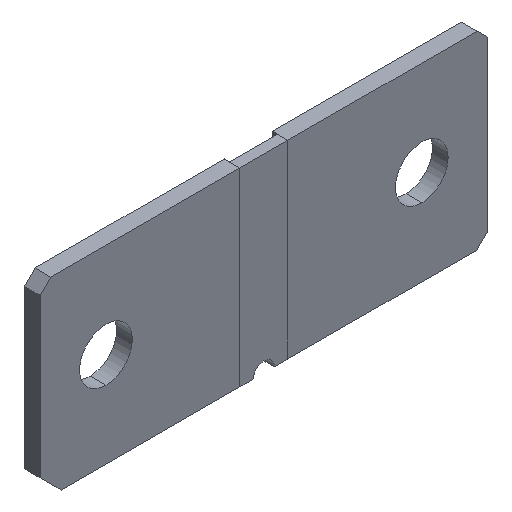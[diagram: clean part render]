
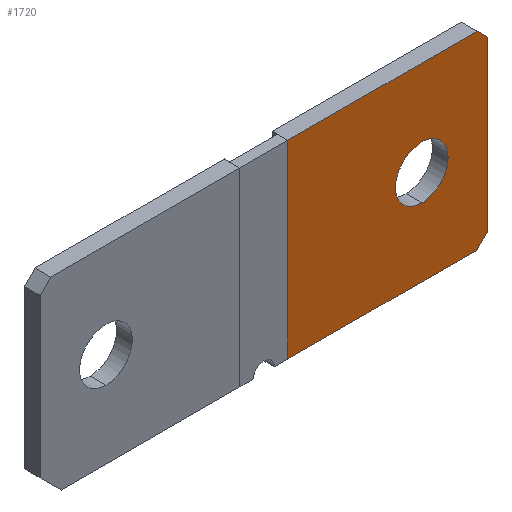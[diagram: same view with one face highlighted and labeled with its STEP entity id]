
A CAD part, isometric view. The second image highlights one B-rep face of the part: STEP entity #1720.
In plain terms, the highlighted planar face has unit normal (0, -1, 0).
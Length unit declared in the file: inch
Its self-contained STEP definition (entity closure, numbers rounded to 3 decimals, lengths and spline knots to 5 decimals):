
#80 = CARTESIAN_POINT ( 'NONE',  ( 0.5032, 0., -0.00243 ) ) ;
#107 = EDGE_CURVE ( 'NONE', #1900, #1770, #606, .T. ) ;
#119 = LINE ( 'NONE', #301, #360 ) ;
#207 = CARTESIAN_POINT ( 'NONE',  ( -0.4978, 0., -0.71093 ) ) ;
#251 = DIRECTION ( 'NONE',  ( -0.707, 0., -0.707 ) ) ;
#278 = CIRCLE ( 'NONE', #691, 0.197 ) ;
#289 = EDGE_CURVE ( 'NONE', #1003, #1673, #344, .T. ) ;
#301 = CARTESIAN_POINT ( 'NONE',  ( 0.9952, 0., 0.62707 ) ) ;
#314 = CARTESIAN_POINT ( 'NONE',  ( 0.5032, 0., -0.00243 ) ) ;
#344 = LINE ( 'NONE', #1277, #1364 ) ;
#360 = VECTOR ( 'NONE', #1931, 39.37008 ) ;
#375 = CARTESIAN_POINT ( 'NONE',  ( 0.9952, 0., -0.63193 ) ) ;
#407 = CARTESIAN_POINT ( 'NONE',  ( 0.9162, 0., 0.70607 ) ) ;
#442 = ORIENTED_EDGE ( 'NONE', *, *, #1240, .F. ) ;
#487 = CARTESIAN_POINT ( 'NONE',  ( -0.4978, 0., -0.71093 ) ) ;
#569 = DIRECTION ( 'NONE',  ( -1., 0., 0. ) ) ;
#590 = FACE_OUTER_BOUND ( 'NONE', #1413, .T. ) ;
#606 = CIRCLE ( 'NONE', #1546, 0.197 ) ;
#653 = VECTOR ( 'NONE', #569, 39.37008 ) ;
#691 = AXIS2_PLACEMENT_3D ( 'NONE', #314, #2297, #2287 ) ;
#737 = LINE ( 'NONE', #375, #1327 ) ;
#787 = LINE ( 'NONE', #1857, #1859 ) ;
#791 = ORIENTED_EDGE ( 'NONE', *, *, #107, .T. ) ;
#815 = ORIENTED_EDGE ( 'NONE', *, *, #1022, .T. ) ;
#894 = DIRECTION ( 'NONE',  ( 0., 0., -1. ) ) ;
#939 = DIRECTION ( 'NONE',  ( 0., 1., 0. ) ) ;
#1003 = VERTEX_POINT ( 'NONE', #487 ) ;
#1022 = EDGE_CURVE ( 'NONE', #1770, #1900, #278, .T. ) ;
#1035 = CARTESIAN_POINT ( 'NONE',  ( 0.5032, 0., 0.19457 ) ) ;
#1036 = VERTEX_POINT ( 'NONE', #1550 ) ;
#1048 = DIRECTION ( 'NONE',  ( 0., 0., 1. ) ) ;
#1144 = ORIENTED_EDGE ( 'NONE', *, *, #1358, .F. ) ;
#1150 = PLANE ( 'NONE',  #1293 ) ;
#1226 = VECTOR ( 'NONE', #1758, 39.37008 ) ;
#1240 = EDGE_CURVE ( 'NONE', #1380, #1914, #737, .T. ) ;
#1269 = EDGE_CURVE ( 'NONE', #1036, #1003, #1826, .T. ) ;
#1277 = CARTESIAN_POINT ( 'NONE',  ( -0.4978, 0., -0.71093 ) ) ;
#1291 = VERTEX_POINT ( 'NONE', #407 ) ;
#1293 = AXIS2_PLACEMENT_3D ( 'NONE', #2063, #1853, #1706 ) ;
#1327 = VECTOR ( 'NONE', #894, 39.37008 ) ;
#1346 = ORIENTED_EDGE ( 'NONE', *, *, #1472, .F. ) ;
#1358 = EDGE_CURVE ( 'NONE', #1914, #1036, #787, .T. ) ;
#1364 = VECTOR ( 'NONE', #1048, 39.37008 ) ;
#1368 = CARTESIAN_POINT ( 'NONE',  ( 0.5032, 0., -0.19943 ) ) ;
#1380 = VERTEX_POINT ( 'NONE', #1562 ) ;
#1413 = EDGE_LOOP ( 'NONE', ( #1881, #1522, #1144, #442, #2260, #1346 ) ) ;
#1438 = EDGE_CURVE ( 'NONE', #1291, #1380, #119, .T. ) ;
#1472 = EDGE_CURVE ( 'NONE', #1673, #1291, #1921, .T. ) ;
#1509 = DIRECTION ( 'NONE',  ( 0., 0., 1. ) ) ;
#1522 = ORIENTED_EDGE ( 'NONE', *, *, #1269, .F. ) ;
#1546 = AXIS2_PLACEMENT_3D ( 'NONE', #80, #939, #1509 ) ;
#1550 = CARTESIAN_POINT ( 'NONE',  ( 0.9162, 0., -0.71093 ) ) ;
#1562 = CARTESIAN_POINT ( 'NONE',  ( 0.9952, 0., 0.62707 ) ) ;
#1646 = EDGE_LOOP ( 'NONE', ( #815, #791 ) ) ;
#1673 = VERTEX_POINT ( 'NONE', #1680 ) ;
#1680 = CARTESIAN_POINT ( 'NONE',  ( -0.4978, 0., 0.70607 ) ) ;
#1706 = DIRECTION ( 'NONE',  ( 0., 0., 1. ) ) ;
#1720 = ADVANCED_FACE ( 'NONE', ( #1879, #590 ), #1150, .F. ) ;
#1758 = DIRECTION ( 'NONE',  ( 1., 0., 0. ) ) ;
#1770 = VERTEX_POINT ( 'NONE', #1035 ) ;
#1826 = LINE ( 'NONE', #207, #653 ) ;
#1853 = DIRECTION ( 'NONE',  ( 0., 1., 0. ) ) ;
#1857 = CARTESIAN_POINT ( 'NONE',  ( 0.9162, 0., -0.71093 ) ) ;
#1859 = VECTOR ( 'NONE', #251, 39.37008 ) ;
#1879 = FACE_BOUND ( 'NONE', #1646, .T. ) ;
#1881 = ORIENTED_EDGE ( 'NONE', *, *, #289, .F. ) ;
#1900 = VERTEX_POINT ( 'NONE', #1368 ) ;
#1914 = VERTEX_POINT ( 'NONE', #2091 ) ;
#1921 = LINE ( 'NONE', #2119, #1226 ) ;
#1931 = DIRECTION ( 'NONE',  ( 0.707, 0., -0.707 ) ) ;
#2063 = CARTESIAN_POINT ( 'NONE',  ( 0., 0., 0. ) ) ;
#2091 = CARTESIAN_POINT ( 'NONE',  ( 0.9952, 0., -0.63193 ) ) ;
#2119 = CARTESIAN_POINT ( 'NONE',  ( -0.4978, 0., 0.70607 ) ) ;
#2260 = ORIENTED_EDGE ( 'NONE', *, *, #1438, .F. ) ;
#2287 = DIRECTION ( 'NONE',  ( 0., 0., 1. ) ) ;
#2297 = DIRECTION ( 'NONE',  ( 0., 1., 0. ) ) ;
